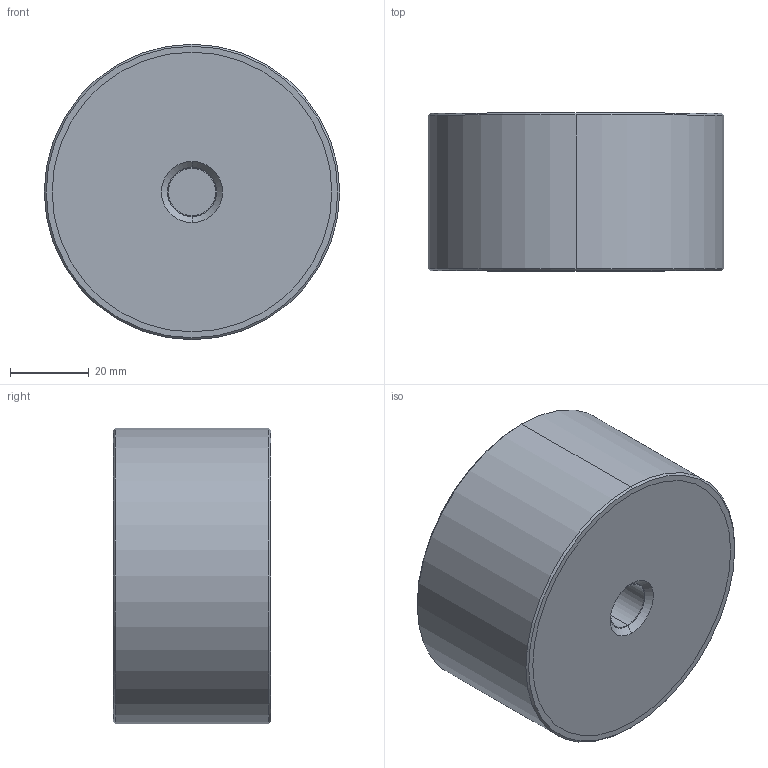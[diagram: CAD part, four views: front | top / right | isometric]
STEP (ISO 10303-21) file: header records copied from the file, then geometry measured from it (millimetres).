
FILE_DESCRIPTION (( 'STEP AP203' ), '1' );
FILE_NAME ('61080.W0751.step', '2018-07-16T20:46:02', ( '' ), ( '' ), 'SwSTEP 2.0', 'SolidWorks 2017', '' );
FILE_SCHEMA (( 'CONFIG_CONTROL_DESIGN' ));
Length unit declared in the file: millimetre
Products named in the file (4): 61080.W0751; Part2_61080.W0751; Part3_61080.W0751; Part1_61080.W0751
Assembly tree (3 placements, depth 2):
  61080.W0751
    Part1_61080.W0751
    Part2_61080.W0751
    Part3_61080.W0751
Bounding box: 75 x 40 x 75 mm (x, y, z)
Volume: 173817.3 mm3; surface area: 35652.4 mm2
Topology: 3 solids, 3 shells, 32 faces, 62 edges, 40 vertices
Faces by surface type: cylinder 14, plane 10, cone 8
Entity records: 1256 total; most frequent: DIRECTION 178, CARTESIAN_POINT 140, ORIENTED_EDGE 124, AXIS2_PLACEMENT_3D 78, EDGE_CURVE 62, CIRCLE 40, VERTEX_POINT 40, EDGE_LOOP 40
